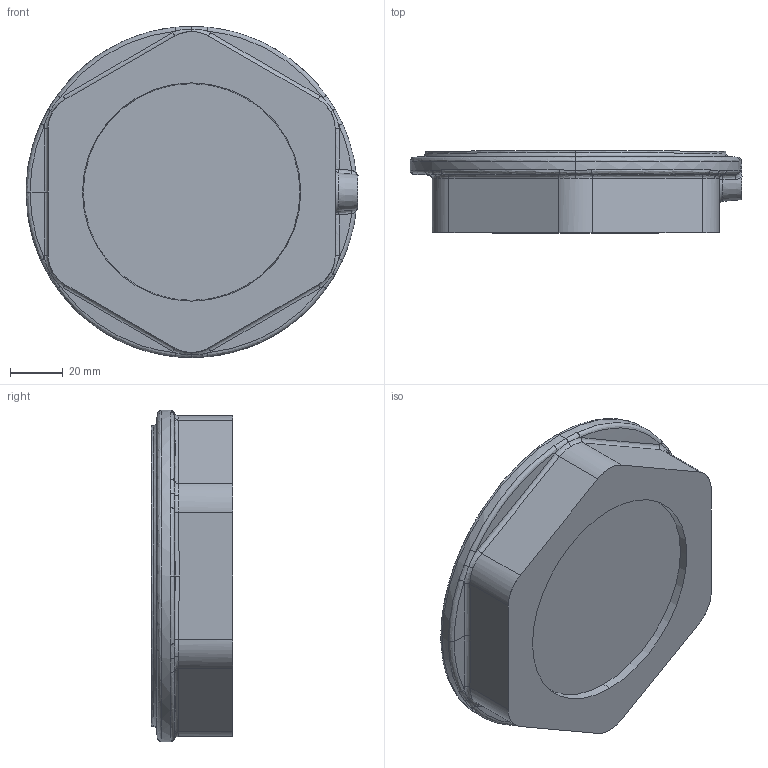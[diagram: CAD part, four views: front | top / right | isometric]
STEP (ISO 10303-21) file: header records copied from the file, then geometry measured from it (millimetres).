
FILE_DESCRIPTION (( 'STEP AP203' ), '1' );
FILE_NAME ('18023001.STEP', '2013-10-25T13:11:34', ( 'eb' ), ( '' ), 'SwSTEP 2.0', 'SolidWorks 2013', '' );
FILE_SCHEMA (( 'CONFIG_CONTROL_DESIGN' ));
Length unit declared in the file: inch
Products named in the file (1): 18023001
Bounding box: 125.76 x 30.91 x 125.48 mm (x, y, z)
Volume: 313112.6 mm3; surface area: 36074.6 mm2
Topology: 1 solids, 1 shells, 104 faces, 315 edges, 211 vertices
Faces by surface type: bspline 65, cone 16, cylinder 13, plane 10
Entity records: 5782 total; most frequent: CARTESIAN_POINT 3480, ORIENTED_EDGE 622, EDGE_CURVE 311, DIRECTION 264, VERTEX_POINT 211, B_SPLINE_CURVE_WITH_KNOTS 200, AXIS2_PLACEMENT_3D 116, EDGE_LOOP 106
